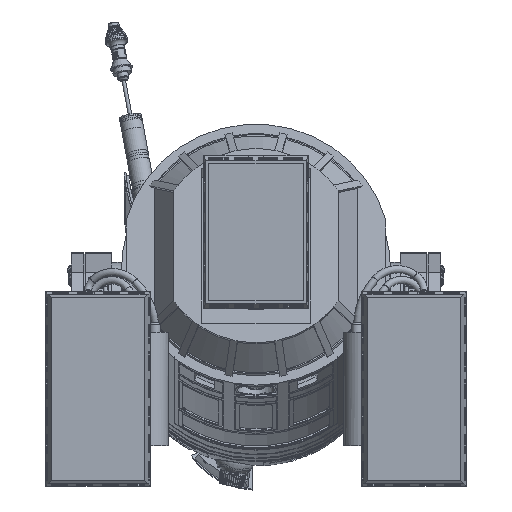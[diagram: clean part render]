
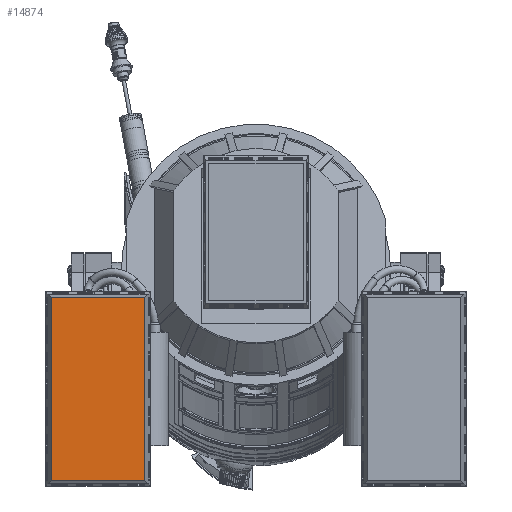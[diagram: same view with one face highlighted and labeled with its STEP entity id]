
A CAD part, front view. The second image highlights one B-rep face of the part: STEP entity #14874.
In plain terms, the highlighted planar face has unit normal (0, -1, 0).
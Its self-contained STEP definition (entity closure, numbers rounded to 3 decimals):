
#14874 = ADVANCED_FACE( '', ( #30444 ), #30445, .F. );
#30444 = FACE_OUTER_BOUND( '', #47793, .T. );
#30445 = PLANE( '', #47794 );
#47793 = EDGE_LOOP( '', ( #90290, #90291, #90292, #90293 ) );
#47794 = AXIS2_PLACEMENT_3D( '', #90294, #90295, #90296 );
#90290 = ORIENTED_EDGE( '', *, *, #98253, .T. );
#90291 = ORIENTED_EDGE( '', *, *, #110376, .F. );
#90292 = ORIENTED_EDGE( '', *, *, #98122, .F. );
#90293 = ORIENTED_EDGE( '', *, *, #110377, .T. );
#90294 = CARTESIAN_POINT( '', ( -75., 0., 167.5 ) );
#90295 = DIRECTION( '', ( 0., 1., 0. ) );
#90296 = DIRECTION( '', ( 0., 0., 1. ) );
#98122 = EDGE_CURVE( '', #118972, #118966, #118974, .T. );
#98253 = EDGE_CURVE( '', #119191, #119189, #119192, .T. );
#110376 = EDGE_CURVE( '', #118966, #119189, #136054, .T. );
#110377 = EDGE_CURVE( '', #118972, #119191, #136055, .T. );
#118966 = VERTEX_POINT( '', #150654 );
#118972 = VERTEX_POINT( '', #150663 );
#118974 = LINE( '', #150666, #150667 );
#119189 = VERTEX_POINT( '', #150992 );
#119191 = VERTEX_POINT( '', #150995 );
#119192 = LINE( '', #150996, #150997 );
#136054 = LINE( '', #180225, #180226 );
#136055 = LINE( '', #180227, #180228 );
#150654 = CARTESIAN_POINT( '', ( 85., 0., -157.5 ) );
#150663 = CARTESIAN_POINT( '', ( 85., 0., 157.5 ) );
#150666 = CARTESIAN_POINT( '', ( 85., 0., 167.5 ) );
#150667 = VECTOR( '', #185767, 1000. );
#150992 = CARTESIAN_POINT( '', ( -75., 0., -157.5 ) );
#150995 = CARTESIAN_POINT( '', ( -75., 0., 157.5 ) );
#150996 = CARTESIAN_POINT( '', ( -75., 0., 167.5 ) );
#150997 = VECTOR( '', #185911, 1000. );
#180225 = CARTESIAN_POINT( '', ( 100., 0., -157.5 ) );
#180226 = VECTOR( '', #197143, 1000. );
#180227 = CARTESIAN_POINT( '', ( 100., 0., 157.5 ) );
#180228 = VECTOR( '', #197144, 1000. );
#185767 = DIRECTION( '', ( 0., 0., -1. ) );
#185911 = DIRECTION( '', ( 0., 0., -1. ) );
#197143 = DIRECTION( '', ( -1., 0., 0. ) );
#197144 = DIRECTION( '', ( -1., 0., 0. ) );
